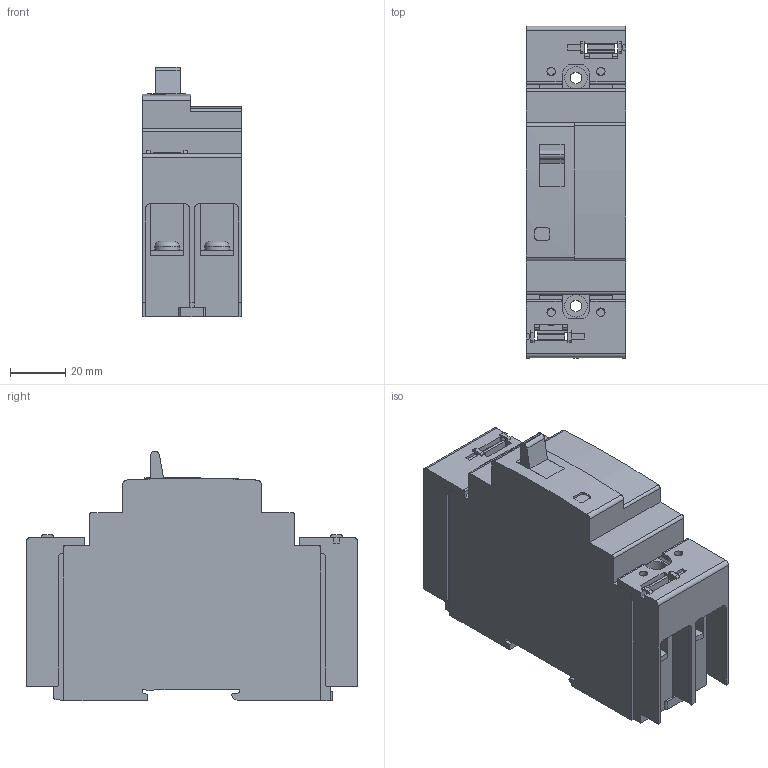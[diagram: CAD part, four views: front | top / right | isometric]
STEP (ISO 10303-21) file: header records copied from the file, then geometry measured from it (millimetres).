
FILE_DESCRIPTION (( 'STEP AP214' ), '1' );
FILE_NAME ('BW50RBGU-2P.STEP', '2015-01-27T05:51:13', ( '川崎工場' ), ( '富士電機株式会社' ), 'SwSTEP 2.0', 'SolidWorks 2014', '' );
FILE_SCHEMA (( 'AUTOMOTIVE_DESIGN' ));
Length unit declared in the file: millimetre
Products named in the file (8): BW50RBGU-2P_Screw_Asm; BW50RBGU-2P_CASE.; Screw_M5_L14; BW50RBGU-2P; BW50RBGU-2P_Terminal_Plate_Asm; BW50RBGU-2P_Terminal_Plate1; BW50RBGU-2P_SWITCH_ON.; BW9BTBA-S2
Assembly tree (14 placements, depth 3):
  BW50RBGU-2P
    BW50RBGU-2P_CASE.
    BW50RBGU-2P_SWITCH_ON.
    BW50RBGU-2P_Terminal_Plate_Asm
      BW50RBGU-2P_Terminal_Plate1  x4
    BW50RBGU-2P_Screw_Asm
      Screw_M5_L14  x4
    BW9BTBA-S2  x2
Bounding box: 36 x 120 x 90.2 mm (x, y, z)
Volume: 236636.1 mm3; surface area: 52114.4 mm2
Topology: 12 solids, 12 shells, 468 faces, 1315 edges, 870 vertices
Faces by surface type: plane 339, cylinder 121, cone 4, torus 4
Full cylindrical faces by diameter (mm): 3 x4, 4.2 x2, 5 x4, 6 x4, 8.1 x2
Entity records: 9059 total; most frequent: CARTESIAN_POINT 1646, ORIENTED_EDGE 1506, DIRECTION 1455, EDGE_CURVE 753, VECTOR 589, LINE 589, VERTEX_POINT 504, AXIS2_PLACEMENT_3D 433
